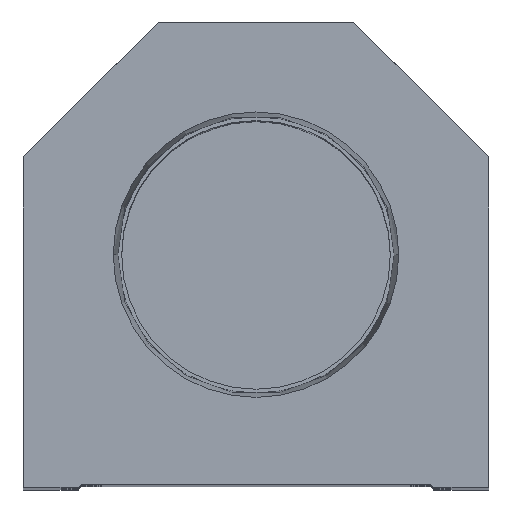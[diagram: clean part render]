
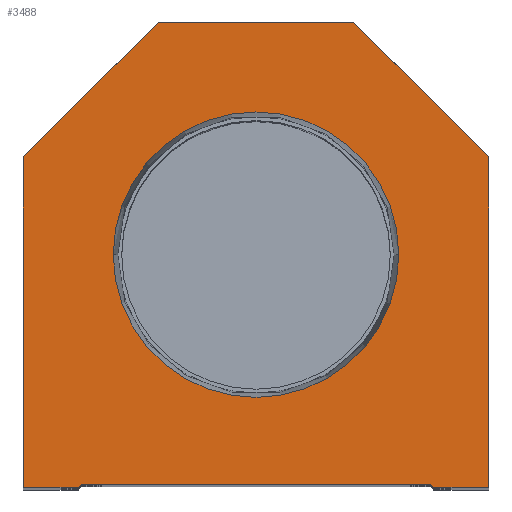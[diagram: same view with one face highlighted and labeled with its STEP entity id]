
A CAD part, top view. The second image highlights one B-rep face of the part: STEP entity #3488.
In plain terms, the highlighted planar face has unit normal (0, 0, 1).
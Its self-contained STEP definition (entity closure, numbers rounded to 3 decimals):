
#39 = DIRECTION ( 'NONE',  ( 1., 0., 0. ) ) ;
#171 = CARTESIAN_POINT ( 'NONE',  ( 38.1, 54.1, 0. ) ) ;
#351 = EDGE_CURVE ( 'NONE', #18604, #15163, #4440, .T. ) ;
#573 = VECTOR ( 'NONE', #2279, 1000. ) ;
#830 = VERTEX_POINT ( 'NONE', #12018 ) ;
#1006 = LINE ( 'NONE', #13930, #20290 ) ;
#1323 = CARTESIAN_POINT ( 'NONE',  ( -29.1, 0., 0. ) ) ;
#1410 = VECTOR ( 'NONE', #1639, 1000. ) ;
#1575 = FACE_BOUND ( 'NONE', #17207, .T. ) ;
#1639 = DIRECTION ( 'NONE',  ( 1., 0., 0. ) ) ;
#1920 = CARTESIAN_POINT ( 'NONE',  ( 38.1, 54.1, 0. ) ) ;
#2279 = DIRECTION ( 'NONE',  ( 0.707, 0.707, 0. ) ) ;
#2629 = EDGE_CURVE ( 'NONE', #4941, #830, #4890, .T. ) ;
#2705 = CARTESIAN_POINT ( 'NONE',  ( 29.1, 0., 0. ) ) ;
#2728 = EDGE_CURVE ( 'NONE', #830, #4941, #11189, .T. ) ;
#2738 = CARTESIAN_POINT ( 'NONE',  ( -16., 76.2, 0. ) ) ;
#3488 = ADVANCED_FACE ( 'NONE', ( #1575, #21611 ), #19753, .T. ) ;
#3618 = ORIENTED_EDGE ( 'NONE', *, *, #13242, .T. ) ;
#3699 = ORIENTED_EDGE ( 'NONE', *, *, #15836, .T. ) ;
#3757 = EDGE_CURVE ( 'NONE', #21334, #19743, #1006, .T. ) ;
#3800 = CARTESIAN_POINT ( 'NONE',  ( 14.55, 14.55, 0. ) ) ;
#3825 = CARTESIAN_POINT ( 'NONE',  ( -14.55, 14.55, 0. ) ) ;
#4147 = VERTEX_POINT ( 'NONE', #1920 ) ;
#4159 = VERTEX_POINT ( 'NONE', #7715 ) ;
#4330 = DIRECTION ( 'NONE',  ( 1., 0., 0. ) ) ;
#4440 = LINE ( 'NONE', #12625, #1410 ) ;
#4588 = VERTEX_POINT ( 'NONE', #1323 ) ;
#4890 = CIRCLE ( 'NONE', #10465, 23.374 ) ;
#4941 = VERTEX_POINT ( 'NONE', #9689 ) ;
#5013 = VERTEX_POINT ( 'NONE', #6192 ) ;
#5383 = DIRECTION ( 'NONE',  ( 0., -1., 0. ) ) ;
#5695 = EDGE_CURVE ( 'NONE', #4147, #21334, #10354, .T. ) ;
#5861 = CARTESIAN_POINT ( 'NONE',  ( 28.6, 0.5, 0. ) ) ;
#5869 = DIRECTION ( 'NONE',  ( 0.707, -0.707, 0. ) ) ;
#5890 = ORIENTED_EDGE ( 'NONE', *, *, #7297, .T. ) ;
#5947 = DIRECTION ( 'NONE',  ( -1., 0., 0. ) ) ;
#6015 = ORIENTED_EDGE ( 'NONE', *, *, #18798, .T. ) ;
#6192 = CARTESIAN_POINT ( 'NONE',  ( -38.1, 0., 0. ) ) ;
#6213 = VERTEX_POINT ( 'NONE', #16019 ) ;
#6288 = CARTESIAN_POINT ( 'NONE',  ( 28.6, 0., 0. ) ) ;
#6543 = EDGE_CURVE ( 'NONE', #5013, #4588, #8563, .T. ) ;
#6590 = DIRECTION ( 'NONE',  ( 0., 0., 1. ) ) ;
#6882 = VECTOR ( 'NONE', #5869, 1000. ) ;
#6963 = ORIENTED_EDGE ( 'NONE', *, *, #13017, .T. ) ;
#7064 = DIRECTION ( 'NONE',  ( -0.707, 0.707, 0. ) ) ;
#7248 = ORIENTED_EDGE ( 'NONE', *, *, #351, .T. ) ;
#7297 = EDGE_CURVE ( 'NONE', #6213, #5013, #10751, .T. ) ;
#7715 = CARTESIAN_POINT ( 'NONE',  ( 38.1, 0., 0. ) ) ;
#7839 = EDGE_CURVE ( 'NONE', #4159, #4147, #21553, .T. ) ;
#8504 = DIRECTION ( 'NONE',  ( 0., 0., 1. ) ) ;
#8563 = LINE ( 'NONE', #16980, #12761 ) ;
#8773 = VECTOR ( 'NONE', #5383, 1000. ) ;
#9586 = DIRECTION ( 'NONE',  ( 0., 0., 1. ) ) ;
#9617 = EDGE_LOOP ( 'NONE', ( #11503, #6963, #7248, #3618, #3699, #14624, #11322, #10905, #6015, #5890 ) ) ;
#9689 = CARTESIAN_POINT ( 'NONE',  ( -23.374, 38.1, 0. ) ) ;
#9788 = VECTOR ( 'NONE', #4330, 1000. ) ;
#9799 = CARTESIAN_POINT ( 'NONE',  ( 0., 0., 0. ) ) ;
#10354 = LINE ( 'NONE', #171, #13088 ) ;
#10426 = CARTESIAN_POINT ( 'NONE',  ( -38.1, 0., 0. ) ) ;
#10465 = AXIS2_PLACEMENT_3D ( 'NONE', #12108, #8504, #16793 ) ;
#10584 = LINE ( 'NONE', #3800, #6882 ) ;
#10751 = LINE ( 'NONE', #10426, #8773 ) ;
#10905 = ORIENTED_EDGE ( 'NONE', *, *, #3757, .T. ) ;
#10943 = VECTOR ( 'NONE', #15728, 1000. ) ;
#10996 = LINE ( 'NONE', #6288, #9788 ) ;
#11189 = CIRCLE ( 'NONE', #17823, 23.374 ) ;
#11223 = DIRECTION ( 'NONE',  ( 1., 0., 0. ) ) ;
#11322 = ORIENTED_EDGE ( 'NONE', *, *, #5695, .T. ) ;
#11503 = ORIENTED_EDGE ( 'NONE', *, *, #6543, .T. ) ;
#11549 = VERTEX_POINT ( 'NONE', #2705 ) ;
#12018 = CARTESIAN_POINT ( 'NONE',  ( 23.374, 38.1, 0. ) ) ;
#12108 = CARTESIAN_POINT ( 'NONE',  ( 0., 38.1, 0. ) ) ;
#12504 = ORIENTED_EDGE ( 'NONE', *, *, #2629, .F. ) ;
#12625 = CARTESIAN_POINT ( 'NONE',  ( -28.6, 0.5, 0. ) ) ;
#12761 = VECTOR ( 'NONE', #15210, 1000. ) ;
#13017 = EDGE_CURVE ( 'NONE', #4588, #18604, #15494, .T. ) ;
#13088 = VECTOR ( 'NONE', #7064, 1000. ) ;
#13242 = EDGE_CURVE ( 'NONE', #15163, #11549, #10584, .T. ) ;
#13930 = CARTESIAN_POINT ( 'NONE',  ( 16., 76.2, 0. ) ) ;
#14624 = ORIENTED_EDGE ( 'NONE', *, *, #7839, .T. ) ;
#15163 = VERTEX_POINT ( 'NONE', #5861 ) ;
#15210 = DIRECTION ( 'NONE',  ( 1., 0., 0. ) ) ;
#15494 = LINE ( 'NONE', #3825, #573 ) ;
#15719 = AXIS2_PLACEMENT_3D ( 'NONE', #9799, #9586, #39 ) ;
#15728 = DIRECTION ( 'NONE',  ( -0.707, -0.707, 0. ) ) ;
#15836 = EDGE_CURVE ( 'NONE', #11549, #4159, #10996, .T. ) ;
#16019 = CARTESIAN_POINT ( 'NONE',  ( -38.1, 54.1, 0. ) ) ;
#16435 = CARTESIAN_POINT ( 'NONE',  ( 16., 76.2, 0. ) ) ;
#16793 = DIRECTION ( 'NONE',  ( 1., 0., 0. ) ) ;
#16980 = CARTESIAN_POINT ( 'NONE',  ( -28.6, 0., 0. ) ) ;
#17207 = EDGE_LOOP ( 'NONE', ( #18090, #12504 ) ) ;
#17626 = LINE ( 'NONE', #21009, #10943 ) ;
#17823 = AXIS2_PLACEMENT_3D ( 'NONE', #21587, #6590, #11223 ) ;
#18052 = CARTESIAN_POINT ( 'NONE',  ( 38.1, 0., 0. ) ) ;
#18090 = ORIENTED_EDGE ( 'NONE', *, *, #2728, .F. ) ;
#18412 = CARTESIAN_POINT ( 'NONE',  ( -28.6, 0.5, 0. ) ) ;
#18604 = VERTEX_POINT ( 'NONE', #18412 ) ;
#18798 = EDGE_CURVE ( 'NONE', #19743, #6213, #17626, .T. ) ;
#19743 = VERTEX_POINT ( 'NONE', #2738 ) ;
#19753 = PLANE ( 'NONE',  #15719 ) ;
#19983 = VECTOR ( 'NONE', #21651, 1000. ) ;
#20290 = VECTOR ( 'NONE', #5947, 1000. ) ;
#21009 = CARTESIAN_POINT ( 'NONE',  ( -38.1, 54.1, 0. ) ) ;
#21334 = VERTEX_POINT ( 'NONE', #16435 ) ;
#21553 = LINE ( 'NONE', #18052, #19983 ) ;
#21587 = CARTESIAN_POINT ( 'NONE',  ( 0., 38.1, 0. ) ) ;
#21611 = FACE_OUTER_BOUND ( 'NONE', #9617, .T. ) ;
#21651 = DIRECTION ( 'NONE',  ( 0., 1., 0. ) ) ;
